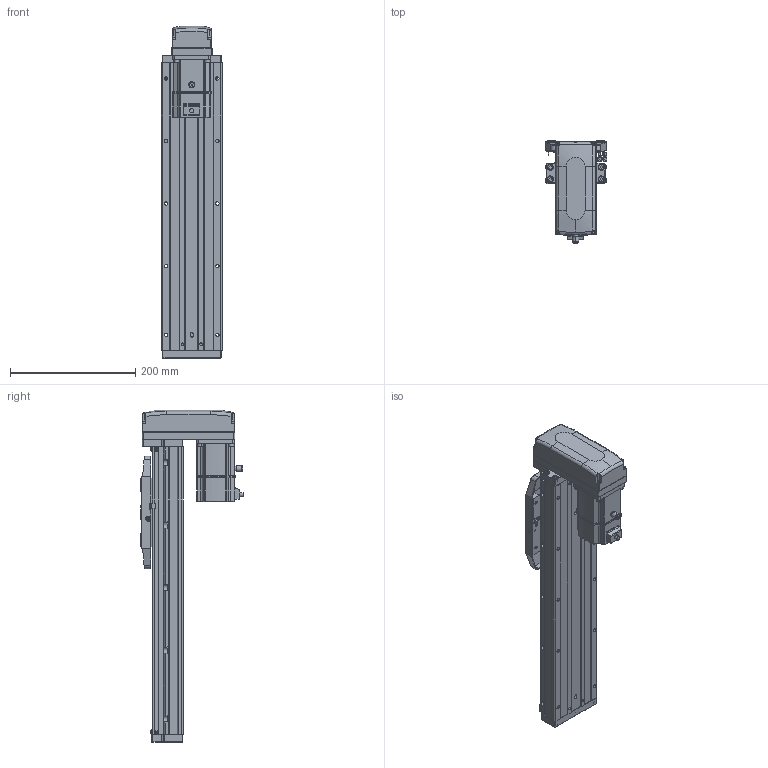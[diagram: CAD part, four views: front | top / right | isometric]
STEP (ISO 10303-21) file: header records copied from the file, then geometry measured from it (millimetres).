
FILE_DESCRIPTION (( 'STEP AP203' ), '1' );
FILE_NAME ('CTHA100-250-BM-M20-C4L.step', '2022-07-06T09:03:25', ( '微软用户' ), ( '微软中国' ), 'SwSTEP 2.0', 'SolidWorks 2020', '' );
FILE_SCHEMA (( 'CONFIG_CONTROL_DESIGN' ));
Length unit declared in the file: millimetre
Products named in the file (19): CTHA86-030; KTHA100-004; GBT 70.1-M3℅6; GBT 70.3-M3℅6; KTHA100-005; GBT70.1 M5℅16; CTHA86-015-1_CTHA86-015-2; GB¨uT 70.2-M3¡Á5_M3¡Á6; CTHA60-016; CTHA86-033; EE_SX911P_R; _X2_4E0983F1_X0_200W_1; CTHA100-250-BM-M20-C4L; CTHA60-017; CTHA100-002; CTHA60-021; CTHA100-031; KTHA100-001_460; GBT77-2000 M3×3
Assembly tree (64 placements, depth 2):
  CTHA100-250-BM-M20-C4L
    KTHA100-001_460
    KTHA100-004
    KTHA100-005
    GB¨uT 70.2-M3¡Á5_M3¡Á6  x10
    EE_SX911P_R  x3
    CTHA60-017  x3
    CTHA60-021  x2
    GBT77-2000 M3×3  x6
    GBT 70.1-M3℅6  x10
    GBT70.1 M5℅16  x14
    CTHA60-016  x2
    _X2_4E0983F1_X0_200W_1
    CTHA100-002
    CTHA100-031
    CTHA86-030  x2
    GBT 70.3-M3℅6  x4
    CTHA86-015-1_CTHA86-015-2
    CTHA86-033
Bounding box: 98.82 x 163.2 x 531 mm (x, y, z)
Volume: 2582501.6 mm3; surface area: 457753.5 mm2
Topology: 66 solids, 66 shells, 2609 faces, 6247 edges, 3868 vertices
Faces by surface type: plane 1356, cylinder 683, cone 347, torus 124, bspline 75, sphere 24
Entity records: 44054 total; most frequent: CARTESIAN_POINT 8699, DIRECTION 6764, ORIENTED_EDGE 6610, EDGE_CURVE 3305, AXIS2_PLACEMENT_3D 2305, LINE 2154, VECTOR 2154, VERTEX_POINT 2088
